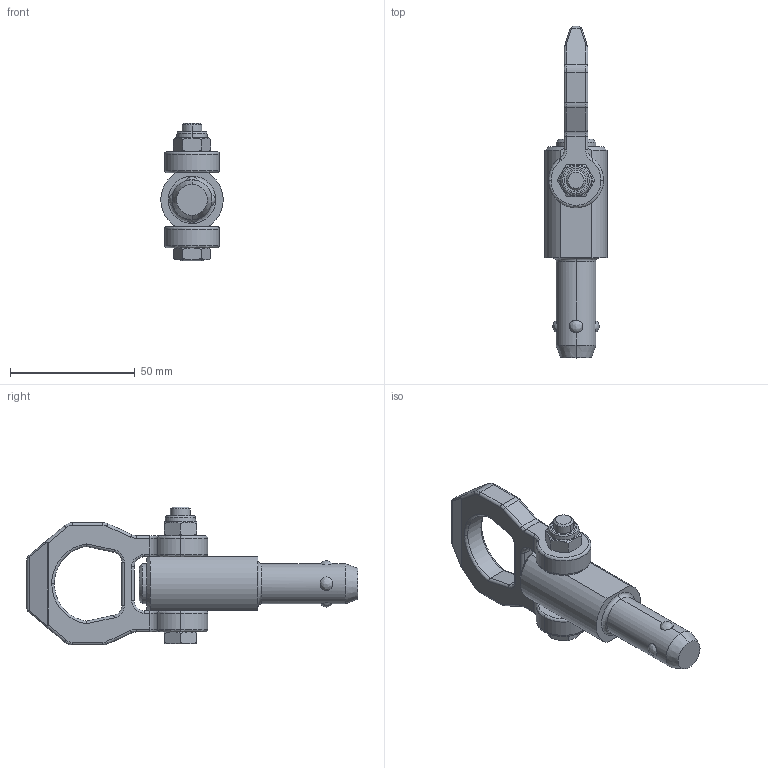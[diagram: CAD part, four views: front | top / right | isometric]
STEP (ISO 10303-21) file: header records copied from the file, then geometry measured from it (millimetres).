
FILE_DESCRIPTION (( 'STEP AP214' ), '1' );
FILE_NAME ('1130-16-25-NI.step', '2023-05-11T09:32:26', ( '' ), ( '' ), 'SwSTEP 2.0', 'SolidWorks 2022', '' );
FILE_SCHEMA (( 'AUTOMOTIVE_DESIGN' ));
Length unit declared in the file: millimetre
Products named in the file (3): Kopie von ring2^WB1130_NI; 1130-16-25-NI; Kopie von bolzen2^WB1130_NI_16-25-NI
Assembly tree (2 placements, depth 2):
  1130-16-25-NI
    Kopie von bolzen2^WB1130_NI_16-25-NI
    Kopie von ring2^WB1130_NI
Bounding box: 25 x 132.9 x 55.25 mm (x, y, z)
Volume: 49155.1 mm3; surface area: 15097.7 mm2
Topology: 2 solids, 2 shells, 265 faces, 646 edges, 396 vertices
Faces by surface type: plane 86, cylinder 77, bspline 54, cone 44, torus 4
Entity records: 10238 total; most frequent: CARTESIAN_POINT 4533, ORIENTED_EDGE 1292, DIRECTION 979, EDGE_CURVE 646, VERTEX_POINT 396, AXIS2_PLACEMENT_3D 377, EDGE_LOOP 282, ADVANCED_FACE 265
